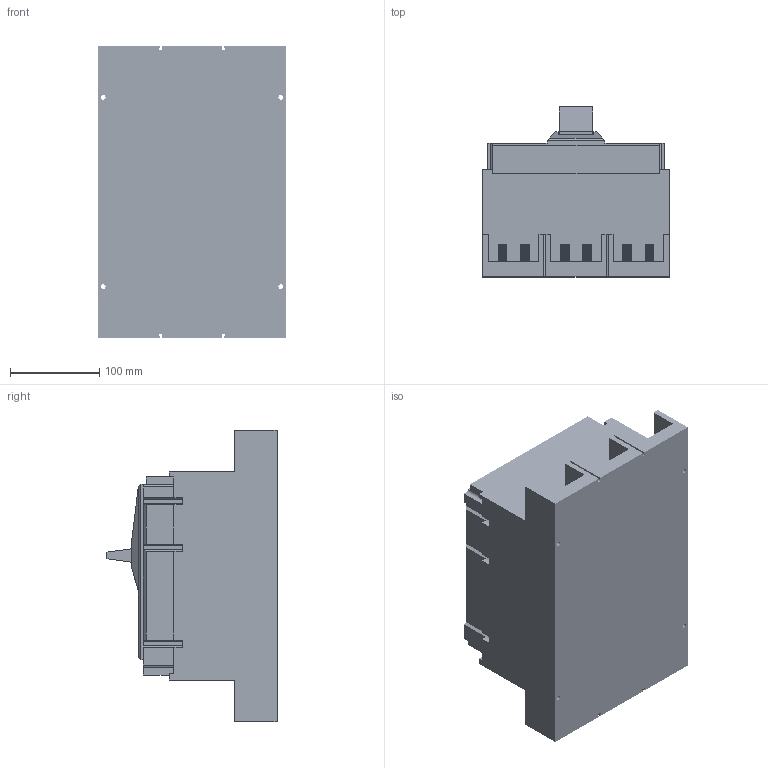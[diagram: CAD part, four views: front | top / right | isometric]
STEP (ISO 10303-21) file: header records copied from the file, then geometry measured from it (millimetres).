
FILE_DESCRIPTION(/* description */ ('','CAx-IF Rec.Pracs.---Representation and Presentation of Product Manufacturing Information (PMI)---3.8---2014-02-18'),/* implementation_level */ '2;1');
FILE_NAME(/* name */ 'E:\3D model\52-susol-mccb-1600af-iec-3p.stp',/* time_stamp */ '2017-11-09T15:02:40+03:00',/* author */ ('dobrin'),/* organization */ (''),/* preprocessor_version */ 'ST-DEVELOPER v16.13',/* originating_system */ 'Autodesk Inventor 2018',/* authorisation */ '');
FILE_SCHEMA (('AP242_MANAGED_MODEL_BASED_3D_ENGINEERING_MIM_LF { 1 0 10303 442 1 1 4 }'));
Products named in the file (1): 52-susol-mccb-1600af-iec-3p
Bounding box: 210 x 190.6 x 327 mm (x, y, z)
Volume: 7664641.4 mm3; surface area: 355244.5 mm2
Topology: 1 solids, 1 shells, 794 faces, 2041 edges, 1294 vertices
Faces by surface type: plane 494, bspline 180, cylinder 104, cone 10, torus 6
Full cylindrical faces by diameter (mm): 2.6 x4, 5.3 x4, 6 x6, 7 x6, 8.52 x6
Entity records: 73137 total; most frequent: CARTESIAN_POINT 55011, ORIENTED_EDGE 4006, DIRECTION 3149, EDGE_CURVE 2001, LINE 1361, VECTOR 1361, VERTEX_POINT 1284, AXIS2_PLACEMENT_3D 898
